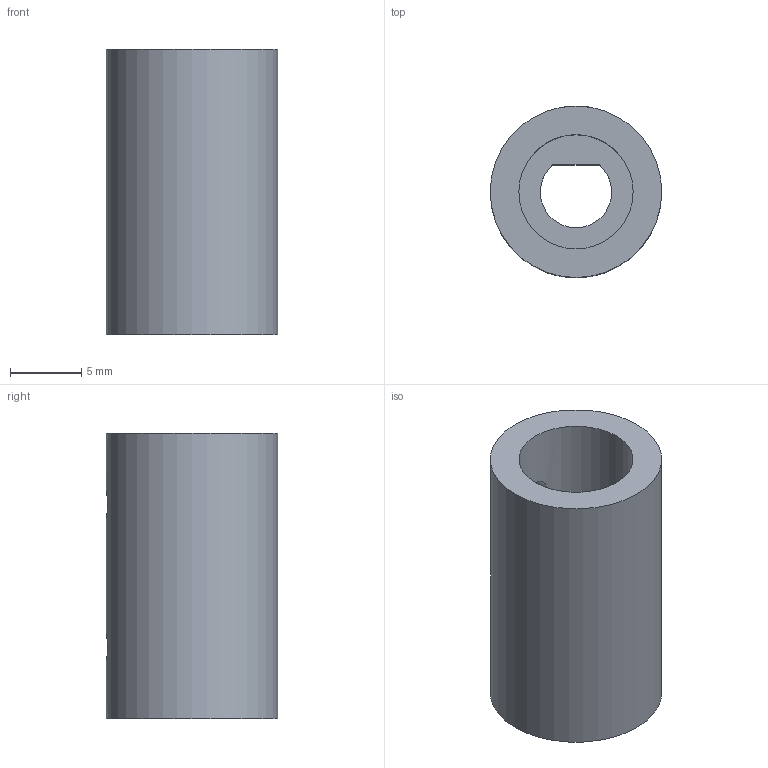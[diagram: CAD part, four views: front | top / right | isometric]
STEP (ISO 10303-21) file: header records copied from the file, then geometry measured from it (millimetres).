
FILE_DESCRIPTION(/* description */ (''),/* implementation_level */ '2;1');
FILE_NAME(/* name */ 'V:\Flow\Inventor\Kontinuierliche Spritzenpumpe\Kupplung Motor Spritze.stp',/* time_stamp */ '2019-12-20T10:24:07+01:00',/* author */ ('JN'),/* organization */ (''),/* preprocessor_version */ 'ST-DEVELOPER v17',/* originating_system */ 'Autodesk Inventor 2018',/* authorisation */ '');
FILE_SCHEMA (('AUTOMOTIVE_DESIGN { 1 0 10303 214 3 1 1 }'));
Length unit declared in the file: millimetre
Products named in the file (1): Kupplung Motor Spritze
Bounding box: 12 x 12 x 20 mm (x, y, z)
Volume: 1557.2 mm3; surface area: 1374.7 mm2
Topology: 1 solids, 1 shells, 9 faces, 22 edges, 16 vertices
Faces by surface type: cylinder 5, plane 4
Full cylindrical faces by diameter (mm): 2 x2, 8 x1, 12 x1
Entity records: 417 total; most frequent: CARTESIAN_POINT 150, ORIENTED_EDGE 44, DIRECTION 44, EDGE_CURVE 22, AXIS2_PLACEMENT_3D 18, EDGE_LOOP 16, VERTEX_POINT 16, FACE_OUTER_BOUND 9
